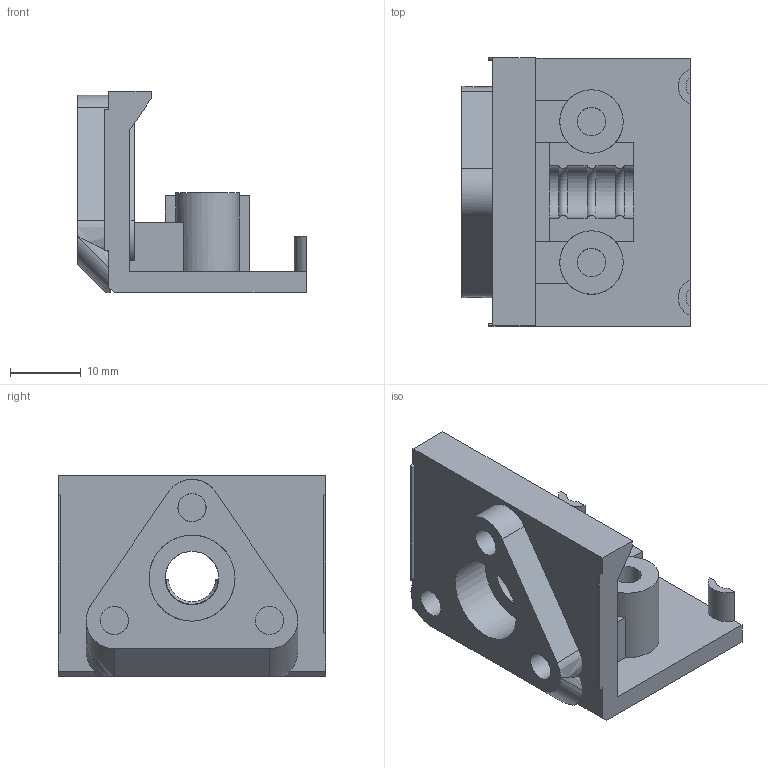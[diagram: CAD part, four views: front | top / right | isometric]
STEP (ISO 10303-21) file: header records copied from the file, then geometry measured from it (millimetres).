
FILE_DESCRIPTION(('FreeCAD Model'),'2;1');
FILE_NAME('Open CASCADE Shape Model','2026-09-29T21:58:28',('Author'),( ''),'Open CASCADE STEP processor 7.8','FreeCAD','Unknown');
FILE_SCHEMA(('AUTOMOTIVE_DESIGN { 1 0 10303 214 1 1 1 1 }'));
Length unit declared in the file: millimetre
Products named in the file (1): entry_fit_coupon
Bounding box: 32.4 x 38 x 28.6 mm (x, y, z)
Volume: 11327.1 mm3; surface area: 6786 mm2
Topology: 1 solids, 1 shells, 86 faces, 237 edges, 159 vertices
Faces by surface type: plane 45, cylinder 21, bspline 17, torus 3
Full cylindrical faces by diameter (mm): 4 x5, 7.6 x1, 9 x2, 12.2 x1
Entity records: 3985 total; most frequent: CARTESIAN_POINT 1951, ORIENTED_EDGE 474, DIRECTION 342, EDGE_CURVE 237, VERTEX_POINT 159, LINE 116, VECTOR 116, AXIS2_PLACEMENT_3D 113
